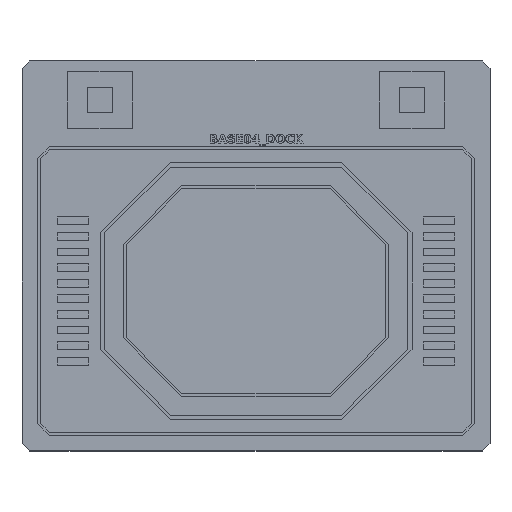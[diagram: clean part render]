
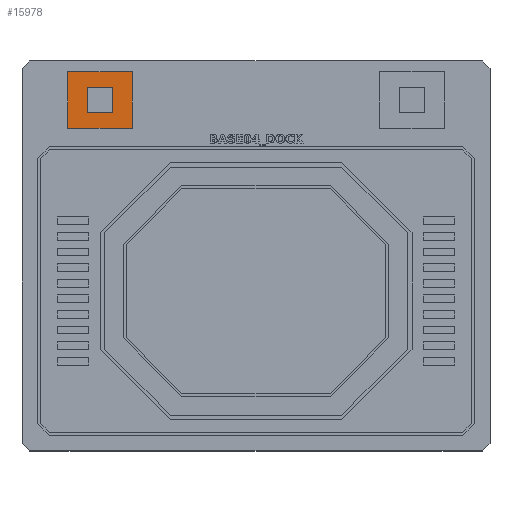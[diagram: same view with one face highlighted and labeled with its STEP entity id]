
A CAD part, top view. The second image highlights one B-rep face of the part: STEP entity #15978.
In plain terms, the highlighted planar face has unit normal (0, 0, 1).
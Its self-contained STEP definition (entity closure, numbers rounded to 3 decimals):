
#2453 = PLANE('',#2454);
#2454 = AXIS2_PLACEMENT_3D('',#2455,#2456,#2457);
#2455 = CARTESIAN_POINT('',(11.7,82.7,6.));
#2456 = DIRECTION('',(-0.,1.,0.));
#2457 = DIRECTION('',(0.,0.,1.));
#2479 = PLANE('',#2480);
#2480 = AXIS2_PLACEMENT_3D('',#2481,#2482,#2483);
#2481 = CARTESIAN_POINT('',(11.7,82.7,6.));
#2482 = DIRECTION('',(1.,0.,-0.));
#2483 = DIRECTION('',(0.,0.,1.));
#2505 = PLANE('',#2506);
#2506 = AXIS2_PLACEMENT_3D('',#2507,#2508,#2509);
#2507 = CARTESIAN_POINT('',(11.7,97.3,6.));
#2508 = DIRECTION('',(-0.,1.,0.));
#2509 = DIRECTION('',(0.,0.,1.));
#2529 = PLANE('',#2530);
#2530 = AXIS2_PLACEMENT_3D('',#2531,#2532,#2533);
#2531 = CARTESIAN_POINT('',(28.3,82.7,6.));
#2532 = DIRECTION('',(1.,0.,-0.));
#2533 = DIRECTION('',(0.,0.,1.));
#8881 = VERTEX_POINT('',#8882);
#8882 = CARTESIAN_POINT('',(28.3,82.7,6.));
#8903 = EDGE_CURVE('',#8904,#8881,#8906,.T.);
#8904 = VERTEX_POINT('',#8905);
#8905 = CARTESIAN_POINT('',(11.7,82.7,6.));
#8906 = SURFACE_CURVE('',#8907,(#8911,#8918),.PCURVE_S1.);
#8907 = LINE('',#8908,#8909);
#8908 = CARTESIAN_POINT('',(11.7,82.7,6.));
#8909 = VECTOR('',#8910,1.);
#8910 = DIRECTION('',(1.,0.,-0.));
#8911 = PCURVE('',#2453,#8912);
#8912 = DEFINITIONAL_REPRESENTATION('',(#8913),#8917);
#8913 = LINE('',#8914,#8915);
#8914 = CARTESIAN_POINT('',(0.,0.));
#8915 = VECTOR('',#8916,1.);
#8916 = DIRECTION('',(0.,1.));
#8917 = ( GEOMETRIC_REPRESENTATION_CONTEXT(2) 
PARAMETRIC_REPRESENTATION_CONTEXT() REPRESENTATION_CONTEXT('2D SPACE',''
  ) );
#8918 = PCURVE('',#8919,#8924);
#8919 = PLANE('',#8920);
#8920 = AXIS2_PLACEMENT_3D('',#8921,#8922,#8923);
#8921 = CARTESIAN_POINT('',(11.7,82.7,6.));
#8922 = DIRECTION('',(0.,0.,1.));
#8923 = DIRECTION('',(1.,0.,-0.));
#8924 = DEFINITIONAL_REPRESENTATION('',(#8925),#8929);
#8925 = LINE('',#8926,#8927);
#8926 = CARTESIAN_POINT('',(0.,0.));
#8927 = VECTOR('',#8928,1.);
#8928 = DIRECTION('',(1.,0.));
#8929 = ( GEOMETRIC_REPRESENTATION_CONTEXT(2) 
PARAMETRIC_REPRESENTATION_CONTEXT() REPRESENTATION_CONTEXT('2D SPACE',''
  ) );
#8957 = EDGE_CURVE('',#8881,#8958,#8960,.T.);
#8958 = VERTEX_POINT('',#8959);
#8959 = CARTESIAN_POINT('',(28.3,97.3,6.));
#8960 = SURFACE_CURVE('',#8961,(#8965,#8972),.PCURVE_S1.);
#8961 = LINE('',#8962,#8963);
#8962 = CARTESIAN_POINT('',(28.3,82.7,6.));
#8963 = VECTOR('',#8964,1.);
#8964 = DIRECTION('',(-0.,1.,0.));
#8965 = PCURVE('',#2529,#8966);
#8966 = DEFINITIONAL_REPRESENTATION('',(#8967),#8971);
#8967 = LINE('',#8968,#8969);
#8968 = CARTESIAN_POINT('',(0.,0.));
#8969 = VECTOR('',#8970,1.);
#8970 = DIRECTION('',(0.,-1.));
#8971 = ( GEOMETRIC_REPRESENTATION_CONTEXT(2) 
PARAMETRIC_REPRESENTATION_CONTEXT() REPRESENTATION_CONTEXT('2D SPACE',''
  ) );
#8972 = PCURVE('',#8919,#8973);
#8973 = DEFINITIONAL_REPRESENTATION('',(#8974),#8978);
#8974 = LINE('',#8975,#8976);
#8975 = CARTESIAN_POINT('',(16.6,0.));
#8976 = VECTOR('',#8977,1.);
#8977 = DIRECTION('',(0.,1.));
#8978 = ( GEOMETRIC_REPRESENTATION_CONTEXT(2) 
PARAMETRIC_REPRESENTATION_CONTEXT() REPRESENTATION_CONTEXT('2D SPACE',''
  ) );
#9006 = EDGE_CURVE('',#8904,#9007,#9009,.T.);
#9007 = VERTEX_POINT('',#9008);
#9008 = CARTESIAN_POINT('',(11.7,97.3,6.));
#9009 = SURFACE_CURVE('',#9010,(#9014,#9021),.PCURVE_S1.);
#9010 = LINE('',#9011,#9012);
#9011 = CARTESIAN_POINT('',(11.7,82.7,6.));
#9012 = VECTOR('',#9013,1.);
#9013 = DIRECTION('',(-0.,1.,0.));
#9014 = PCURVE('',#2479,#9015);
#9015 = DEFINITIONAL_REPRESENTATION('',(#9016),#9020);
#9016 = LINE('',#9017,#9018);
#9017 = CARTESIAN_POINT('',(0.,0.));
#9018 = VECTOR('',#9019,1.);
#9019 = DIRECTION('',(0.,-1.));
#9020 = ( GEOMETRIC_REPRESENTATION_CONTEXT(2) 
PARAMETRIC_REPRESENTATION_CONTEXT() REPRESENTATION_CONTEXT('2D SPACE',''
  ) );
#9021 = PCURVE('',#8919,#9022);
#9022 = DEFINITIONAL_REPRESENTATION('',(#9023),#9027);
#9023 = LINE('',#9024,#9025);
#9024 = CARTESIAN_POINT('',(0.,0.));
#9025 = VECTOR('',#9026,1.);
#9026 = DIRECTION('',(0.,1.));
#9027 = ( GEOMETRIC_REPRESENTATION_CONTEXT(2) 
PARAMETRIC_REPRESENTATION_CONTEXT() REPRESENTATION_CONTEXT('2D SPACE',''
  ) );
#9055 = EDGE_CURVE('',#9007,#8958,#9056,.T.);
#9056 = SURFACE_CURVE('',#9057,(#9061,#9068),.PCURVE_S1.);
#9057 = LINE('',#9058,#9059);
#9058 = CARTESIAN_POINT('',(11.7,97.3,6.));
#9059 = VECTOR('',#9060,1.);
#9060 = DIRECTION('',(1.,0.,-0.));
#9061 = PCURVE('',#2505,#9062);
#9062 = DEFINITIONAL_REPRESENTATION('',(#9063),#9067);
#9063 = LINE('',#9064,#9065);
#9064 = CARTESIAN_POINT('',(0.,0.));
#9065 = VECTOR('',#9066,1.);
#9066 = DIRECTION('',(0.,1.));
#9067 = ( GEOMETRIC_REPRESENTATION_CONTEXT(2) 
PARAMETRIC_REPRESENTATION_CONTEXT() REPRESENTATION_CONTEXT('2D SPACE',''
  ) );
#9068 = PCURVE('',#8919,#9069);
#9069 = DEFINITIONAL_REPRESENTATION('',(#9070),#9074);
#9070 = LINE('',#9071,#9072);
#9071 = CARTESIAN_POINT('',(0.,14.6));
#9072 = VECTOR('',#9073,1.);
#9073 = DIRECTION('',(1.,0.));
#9074 = ( GEOMETRIC_REPRESENTATION_CONTEXT(2) 
PARAMETRIC_REPRESENTATION_CONTEXT() REPRESENTATION_CONTEXT('2D SPACE',''
  ) );
#15978 = ADVANCED_FACE('',(#15979,#15985),#8919,.T.);
#15979 = FACE_BOUND('',#15980,.T.);
#15980 = EDGE_LOOP('',(#15981,#15982,#15983,#15984));
#15981 = ORIENTED_EDGE('',*,*,#9006,.F.);
#15982 = ORIENTED_EDGE('',*,*,#8903,.T.);
#15983 = ORIENTED_EDGE('',*,*,#8957,.T.);
#15984 = ORIENTED_EDGE('',*,*,#9055,.F.);
#15985 = FACE_BOUND('',#15986,.T.);
#15986 = EDGE_LOOP('',(#15987,#16015,#16041,#16067));
#15987 = ORIENTED_EDGE('',*,*,#15988,.T.);
#15988 = EDGE_CURVE('',#15989,#15991,#15993,.T.);
#15989 = VERTEX_POINT('',#15990);
#15990 = CARTESIAN_POINT('',(23.3,86.7,6.));
#15991 = VERTEX_POINT('',#15992);
#15992 = CARTESIAN_POINT('',(16.7,86.7,6.));
#15993 = SURFACE_CURVE('',#15994,(#15998,#16004),.PCURVE_S1.);
#15994 = LINE('',#15995,#15996);
#15995 = CARTESIAN_POINT('',(14.2,86.7,6.));
#15996 = VECTOR('',#15997,1.);
#15997 = DIRECTION('',(-1.,-0.,0.));
#15998 = PCURVE('',#8919,#15999);
#15999 = DEFINITIONAL_REPRESENTATION('',(#16000),#16003);
#16000 = B_SPLINE_CURVE_WITH_KNOTS('',1,(#16001,#16002),.UNSPECIFIED.,
  .F.,.F.,(2,2),(-9.1,-2.5),.PIECEWISE_BEZIER_KNOTS.);
#16001 = CARTESIAN_POINT('',(11.6,4.));
#16002 = CARTESIAN_POINT('',(5.,4.));
#16003 = ( GEOMETRIC_REPRESENTATION_CONTEXT(2) 
PARAMETRIC_REPRESENTATION_CONTEXT() REPRESENTATION_CONTEXT('2D SPACE',''
  ) );
#16004 = PCURVE('',#16005,#16010);
#16005 = PLANE('',#16006);
#16006 = AXIS2_PLACEMENT_3D('',#16007,#16008,#16009);
#16007 = CARTESIAN_POINT('',(16.7,86.7,3.));
#16008 = DIRECTION('',(-0.,1.,0.));
#16009 = DIRECTION('',(0.,0.,1.));
#16010 = DEFINITIONAL_REPRESENTATION('',(#16011),#16014);
#16011 = B_SPLINE_CURVE_WITH_KNOTS('',1,(#16012,#16013),.UNSPECIFIED.,
  .F.,.F.,(2,2),(-9.1,-2.5),.PIECEWISE_BEZIER_KNOTS.);
#16012 = CARTESIAN_POINT('',(3.,6.6));
#16013 = CARTESIAN_POINT('',(3.,0.));
#16014 = ( GEOMETRIC_REPRESENTATION_CONTEXT(2) 
PARAMETRIC_REPRESENTATION_CONTEXT() REPRESENTATION_CONTEXT('2D SPACE',''
  ) );
#16015 = ORIENTED_EDGE('',*,*,#16016,.T.);
#16016 = EDGE_CURVE('',#15991,#16017,#16019,.T.);
#16017 = VERTEX_POINT('',#16018);
#16018 = CARTESIAN_POINT('',(16.7,93.3,6.));
#16019 = SURFACE_CURVE('',#16020,(#16024,#16030),.PCURVE_S1.);
#16020 = LINE('',#16021,#16022);
#16021 = CARTESIAN_POINT('',(16.7,84.7,6.));
#16022 = VECTOR('',#16023,1.);
#16023 = DIRECTION('',(-0.,1.,0.));
#16024 = PCURVE('',#8919,#16025);
#16025 = DEFINITIONAL_REPRESENTATION('',(#16026),#16029);
#16026 = B_SPLINE_CURVE_WITH_KNOTS('',1,(#16027,#16028),.UNSPECIFIED.,
  .F.,.F.,(2,2),(2.,8.6),.PIECEWISE_BEZIER_KNOTS.);
#16027 = CARTESIAN_POINT('',(5.,4.));
#16028 = CARTESIAN_POINT('',(5.,10.6));
#16029 = ( GEOMETRIC_REPRESENTATION_CONTEXT(2) 
PARAMETRIC_REPRESENTATION_CONTEXT() REPRESENTATION_CONTEXT('2D SPACE',''
  ) );
#16030 = PCURVE('',#16031,#16036);
#16031 = PLANE('',#16032);
#16032 = AXIS2_PLACEMENT_3D('',#16033,#16034,#16035);
#16033 = CARTESIAN_POINT('',(16.7,86.7,3.));
#16034 = DIRECTION('',(1.,0.,-0.));
#16035 = DIRECTION('',(0.,0.,1.));
#16036 = DEFINITIONAL_REPRESENTATION('',(#16037),#16040);
#16037 = B_SPLINE_CURVE_WITH_KNOTS('',1,(#16038,#16039),.UNSPECIFIED.,
  .F.,.F.,(2,2),(2.,8.6),.PIECEWISE_BEZIER_KNOTS.);
#16038 = CARTESIAN_POINT('',(3.,0.));
#16039 = CARTESIAN_POINT('',(3.,-6.6));
#16040 = ( GEOMETRIC_REPRESENTATION_CONTEXT(2) 
PARAMETRIC_REPRESENTATION_CONTEXT() REPRESENTATION_CONTEXT('2D SPACE',''
  ) );
#16041 = ORIENTED_EDGE('',*,*,#16042,.F.);
#16042 = EDGE_CURVE('',#16043,#16017,#16045,.T.);
#16043 = VERTEX_POINT('',#16044);
#16044 = CARTESIAN_POINT('',(23.3,93.3,6.));
#16045 = SURFACE_CURVE('',#16046,(#16050,#16056),.PCURVE_S1.);
#16046 = LINE('',#16047,#16048);
#16047 = CARTESIAN_POINT('',(14.2,93.3,6.));
#16048 = VECTOR('',#16049,1.);
#16049 = DIRECTION('',(-1.,-0.,0.));
#16050 = PCURVE('',#8919,#16051);
#16051 = DEFINITIONAL_REPRESENTATION('',(#16052),#16055);
#16052 = B_SPLINE_CURVE_WITH_KNOTS('',1,(#16053,#16054),.UNSPECIFIED.,
  .F.,.F.,(2,2),(-9.1,-2.5),.PIECEWISE_BEZIER_KNOTS.);
#16053 = CARTESIAN_POINT('',(11.6,10.6));
#16054 = CARTESIAN_POINT('',(5.,10.6));
#16055 = ( GEOMETRIC_REPRESENTATION_CONTEXT(2) 
PARAMETRIC_REPRESENTATION_CONTEXT() REPRESENTATION_CONTEXT('2D SPACE',''
  ) );
#16056 = PCURVE('',#16057,#16062);
#16057 = PLANE('',#16058);
#16058 = AXIS2_PLACEMENT_3D('',#16059,#16060,#16061);
#16059 = CARTESIAN_POINT('',(16.7,93.3,3.));
#16060 = DIRECTION('',(-0.,1.,0.));
#16061 = DIRECTION('',(0.,0.,1.));
#16062 = DEFINITIONAL_REPRESENTATION('',(#16063),#16066);
#16063 = B_SPLINE_CURVE_WITH_KNOTS('',1,(#16064,#16065),.UNSPECIFIED.,
  .F.,.F.,(2,2),(-9.1,-2.5),.PIECEWISE_BEZIER_KNOTS.);
#16064 = CARTESIAN_POINT('',(3.,6.6));
#16065 = CARTESIAN_POINT('',(3.,0.));
#16066 = ( GEOMETRIC_REPRESENTATION_CONTEXT(2) 
PARAMETRIC_REPRESENTATION_CONTEXT() REPRESENTATION_CONTEXT('2D SPACE',''
  ) );
#16067 = ORIENTED_EDGE('',*,*,#16068,.F.);
#16068 = EDGE_CURVE('',#15989,#16043,#16069,.T.);
#16069 = SURFACE_CURVE('',#16070,(#16074,#16080),.PCURVE_S1.);
#16070 = LINE('',#16071,#16072);
#16071 = CARTESIAN_POINT('',(23.3,84.7,6.));
#16072 = VECTOR('',#16073,1.);
#16073 = DIRECTION('',(-0.,1.,0.));
#16074 = PCURVE('',#8919,#16075);
#16075 = DEFINITIONAL_REPRESENTATION('',(#16076),#16079);
#16076 = B_SPLINE_CURVE_WITH_KNOTS('',1,(#16077,#16078),.UNSPECIFIED.,
  .F.,.F.,(2,2),(2.,8.6),.PIECEWISE_BEZIER_KNOTS.);
#16077 = CARTESIAN_POINT('',(11.6,4.));
#16078 = CARTESIAN_POINT('',(11.6,10.6));
#16079 = ( GEOMETRIC_REPRESENTATION_CONTEXT(2) 
PARAMETRIC_REPRESENTATION_CONTEXT() REPRESENTATION_CONTEXT('2D SPACE',''
  ) );
#16080 = PCURVE('',#16081,#16086);
#16081 = PLANE('',#16082);
#16082 = AXIS2_PLACEMENT_3D('',#16083,#16084,#16085);
#16083 = CARTESIAN_POINT('',(23.3,86.7,3.));
#16084 = DIRECTION('',(1.,0.,-0.));
#16085 = DIRECTION('',(0.,0.,1.));
#16086 = DEFINITIONAL_REPRESENTATION('',(#16087),#16090);
#16087 = B_SPLINE_CURVE_WITH_KNOTS('',1,(#16088,#16089),.UNSPECIFIED.,
  .F.,.F.,(2,2),(2.,8.6),.PIECEWISE_BEZIER_KNOTS.);
#16088 = CARTESIAN_POINT('',(3.,0.));
#16089 = CARTESIAN_POINT('',(3.,-6.6));
#16090 = ( GEOMETRIC_REPRESENTATION_CONTEXT(2) 
PARAMETRIC_REPRESENTATION_CONTEXT() REPRESENTATION_CONTEXT('2D SPACE',''
  ) );
